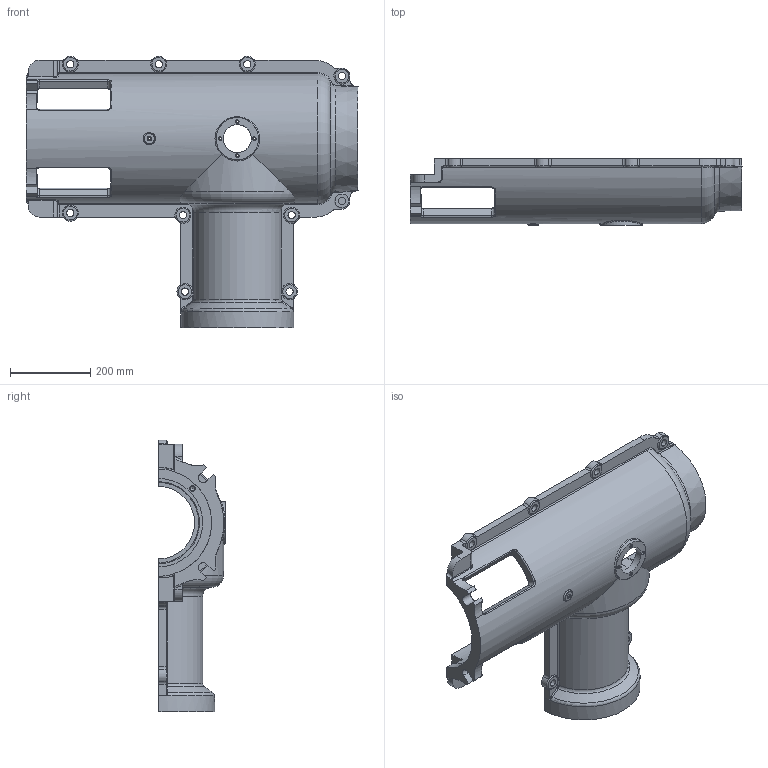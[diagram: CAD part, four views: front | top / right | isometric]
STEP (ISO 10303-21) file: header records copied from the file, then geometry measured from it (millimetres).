
FILE_DESCRIPTION(('STEP AP203'), '1');
FILE_NAME('Êðûøêà ðåäóêòîðà óãëîâîãî ïðàâàÿ _ 2.02422.02.00.02 çåðêàëüíî', '', ('UNSPECIFIED'), ('UNSPECIFIED'), 'C3D Converter', 'C3D Toolkit', '');
FILE_SCHEMA(('CONFIG_CONTROL_DESIGN'));
Length unit declared in the file: millimetre
Products named in the file (2): 2.02422.02.00.02
Assembly tree (1 placements, depth 2):
  (unnamed)
    2.02422.02.00.02
Bounding box: 825 x 165 x 675 mm (x, y, z)
Volume: 11756018.7 mm3; surface area: 1207008.7 mm2
Topology: 1 solids, 1 shells, 311 faces, 825 edges, 506 vertices
Faces by surface type: cylinder 122, plane 77, bspline 57, torus 34, cone 21
Full cylindrical faces by diameter (mm): 6 x1, 6.647 x4, 8.376 x1, 10.106 x3, 15.294 x2, 18 x10, 25 x1, 70 x1, 105 x1
Entity records: 20934 total; most frequent: CARTESIAN_POINT 13708, ORIENTED_EDGE 1522, DIRECTION 1376, EDGE_CURVE 761, AXIS2_PLACEMENT_3D 560, VERTEX_POINT 498, EDGE_LOOP 393, ADVANCED_FACE 311
